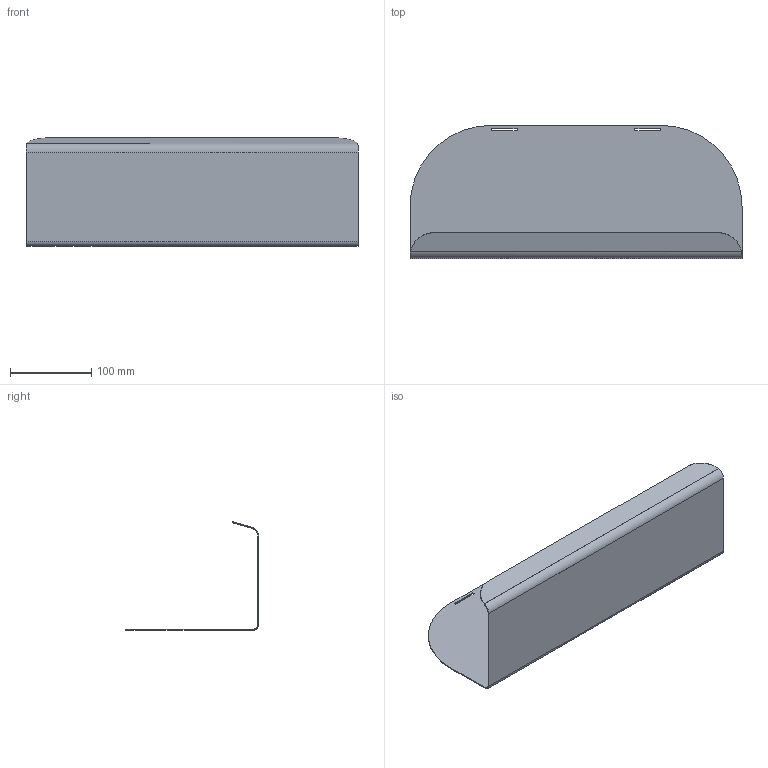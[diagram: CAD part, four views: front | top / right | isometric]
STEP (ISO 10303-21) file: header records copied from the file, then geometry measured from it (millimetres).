
FILE_DESCRIPTION (( 'STEP AP214' ), '1' );
FILE_NAME ('NIK_101.STEP', '2021-11-29T08:42:33', ( '' ), ( '' ), 'SwSTEP 2.0', 'SolidWorks 2019', '' );
FILE_SCHEMA (( 'AUTOMOTIVE_DESIGN' ));
Length unit declared in the file: millimetre
Products named in the file (1): NIK_101
Bounding box: 409 x 164.2 x 133.5 mm (x, y, z)
Volume: 148703.4 mm3; surface area: 249607.9 mm2
Topology: 1 solids, 1 shells, 32 faces, 78 edges, 48 vertices
Faces by surface type: plane 24, cylinder 8
Entity records: 988 total; most frequent: CARTESIAN_POINT 191, ORIENTED_EDGE 156, DIRECTION 156, EDGE_CURVE 78, LINE 58, VECTOR 58, AXIS2_PLACEMENT_3D 49, VERTEX_POINT 48
